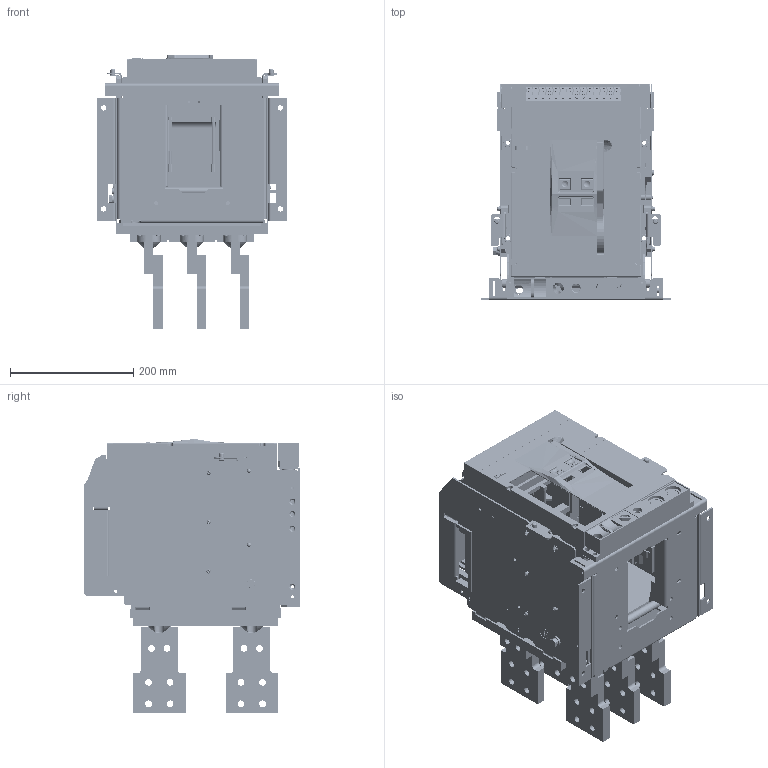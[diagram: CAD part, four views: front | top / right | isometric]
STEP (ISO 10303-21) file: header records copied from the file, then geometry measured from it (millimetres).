
FILE_DESCRIPTION((''),'2;1');
FILE_NAME('NA8G-1600-1600-DO-3P-V_ASM','2019-05-21T14:42:47',('lcc'),(''),'CREO PARAMETRIC BY PTC INC, 2018020','CREO PARAMETRIC BY PTC INC, 2018020','');
FILE_SCHEMA(('CONFIG_CONTROL_DESIGN','SHAPE_APPEARANCE_LAYERS_GROUPS'));
Products named in the file (56): 8-024-504; 8-300-164; 8-141-125; 8-860-349; 8-441-081; 8-200-099; 8-236-064; 5-203-058_ASM; 8-145-063; 8-211-092; 5-024-172_ASM; 8-050-244; 8-960-058; 8-960-056; 8-960-057; 8-960-060; 8-960-059; 8-127-020; 8-125-057; 8-123-120; 8-261-001; 8-125-001; 8-210-176; 5-124-010_ASM; 8-233-301; GBT97_1-4; GBT93-4; GBT818-M4X10; GBT845-ST4_2X9_5C; GBT6170-M8; 5-050-095_ASM; 8-050-243; 8-261-002; 8-125-002; 5-124-011_ASM; GBT97_1-8; GBT93-8; GBT5783-M8X16; 5-050-096_ASM; 8-300-166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
Assembly tree (114 placements, depth 4):
  NA8G-1600-1600-DO-3P-V_ASM
    5-024-172_ASM
      8-024-504
      8-300-164
      8-141-125
      8-860-349
      8-441-081
      5-203-058_ASM
        8-200-099
        8-236-064  x2
      8-145-063  x2
      8-211-092
    5-050-095_ASM
      8-050-244
      8-960-058
      8-960-056
      8-960-057
      8-960-060
      8-960-059
      8-127-020
      8-125-057
      8-123-120
      5-124-010_ASM
        8-261-001
        8-125-001
        8-210-176
      8-233-301
      GBT97_1-4  x5
      GBT93-4  x5
      GBT818-M4X10  x5
      GBT845-ST4_2X9_5C
      GBT6170-M8  x2
    5-050-096_ASM
      8-050-243
      8-125-057
      8-123-120
      5-124-011_ASM
        8-261-002
        8-125-002
        8-210-176
      GBT6170-M8  x2
      GBT97_1-4  x5
      GBT93-4  x5
      GBT818-M4X10  x5
      GBT97_1-8  x2
      GBT93-8
      GBT5783-M8X16
    8-300-166
    8-015-021
    8ZTD-043-780
    8ZTD-043-781
    8-300-162-2
    8-253-348
    8-253-349
    8-253-309
    5-235-147
    1600-DIJIA-3P
    1600-DUANZI-CTS_ASM
      8ZTD-064-138
      8ZTD-024-689  x14
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Bounding box: 308 x 351 x 445 mm (x, y, z)
Volume: 7563378.6 mm3; surface area: 2072581.4 mm2
Topology: 107 solids, 153 shells, 7258 faces, 19872 edges, 13076 vertices
Faces by surface type: plane 5266, cylinder 1729, cone 102, bspline 74, torus 54, sphere 32, extrusion 1
Entity records: 175681 total; most frequent: CARTESIAN_POINT 26818, ORIENTED_EDGE 24260, DIRECTION 23894, EDGE_CURVE 12141, PRESENTATION_STYLE_ASSIGNMENT 10184, STYLED_ITEM 10144, CURVE_STYLE 9995, VECTOR 9360
